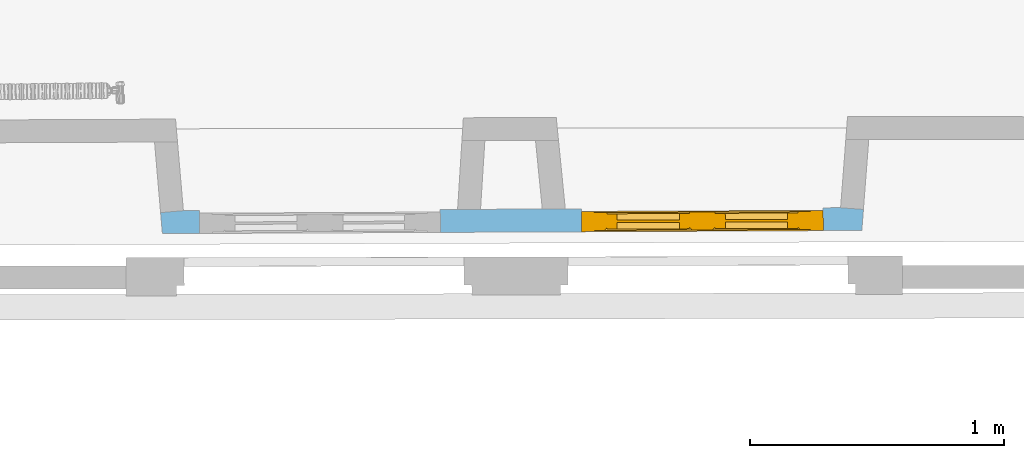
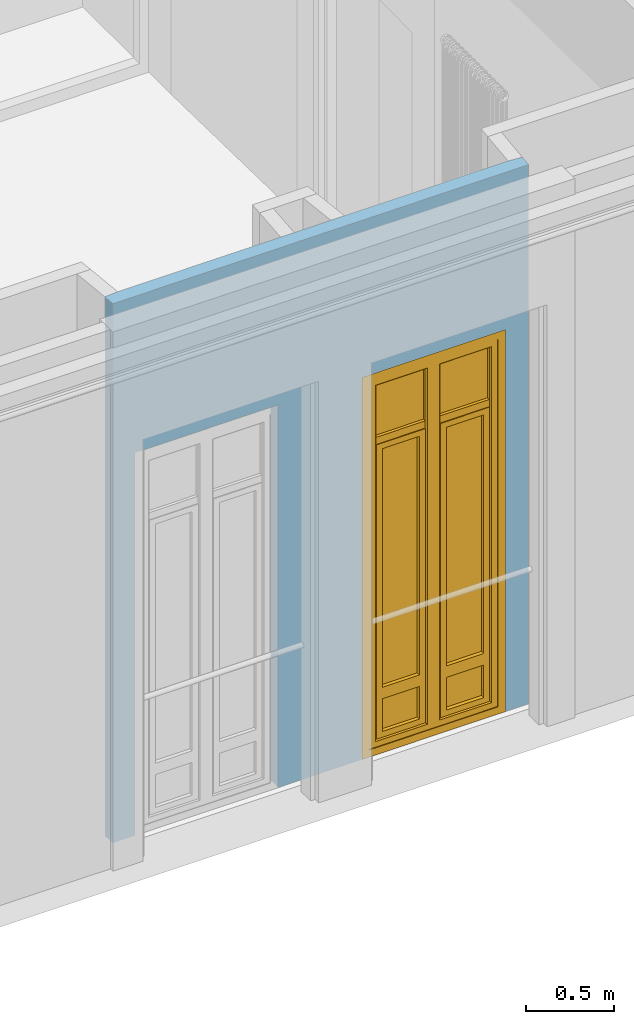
# One storey, part 36 of 66: 1 window, 2 openings, plus 1 element that does not belong to this part.
"""IFC2X3 building model written with IfcOpenShell, lengths in centimetres."""

from ifc_helpers import new_model, entity, si_unit, converted_unit, direction, frame, origin, origin_with_axes, place, context, subcontext, project, spatial, polyline, outline, extrude, faceted_brep, shape, source, transform, mapped, material, material_list, layer, layer_set, layer_usage, type_object, element, fill, save


model = new_model("IFC2X3")

# Units and contexts
model_context = context("Model", 3, precision=0.0001, world=origin(), true_north=direction((0.225632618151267, 0.974212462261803, 0.0)))
body_context = subcontext(model_context, "Body", "Model", "MODEL_VIEW")
footprint_context = subcontext(model_context, "FootPrint", "Model", "MODEL_VIEW")
profile_context = subcontext(model_context, "Profile", "Model", "MODEL_VIEW")
ifc_project = project(units=[si_unit("LENGTHUNIT", "METRE", prefix="CENTI"), si_unit("AREAUNIT", "SQUARE_METRE", prefix="CENTI"), si_unit("VOLUMEUNIT", "CUBIC_METRE", prefix="CENTI"), converted_unit("PLANEANGLEUNIT", "DEGREE", entity("IfcRatioMeasure", 0.0174532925), si_unit("PLANEANGLEUNIT", "RADIAN"), dimensions=[0, 0, 0, 0, 0, 0, 0])], contexts=[model_context])

# Site, building, storey
site_placement = place(None, origin_with_axes())
site = spatial("IfcSite", under=ifc_project, at=site_placement, Name="Default Site", CompositionType="ELEMENT")
building_placement = place(site_placement, origin_with_axes())
building = spatial("IfcBuilding", under=site, at=building_placement, Name="Default Building", CompositionType="ELEMENT")
storey_placement = place(building_placement, frame((0.0, 0.0, 477.795358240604), z_axis=(0.0, 0.0, 1.0), x_axis=(1.0, 0.0, 0.0)))
storey = spatial("IfcBuildingStorey", under=building, at=storey_placement, Name="Niveau 1", CompositionType="ELEMENT", Elevation=477.795358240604)

# Wall, openings, window
ifc_material_1 = material(Name="<aucun>")
ifc_layer = layer(ifc_material_1, 9.0)
ifc_layer_set = layer_set([ifc_layer], Name="default")
ifc_layer_usage = layer_usage(ifc_layer_set, "AXIS2", "POSITIVE", -4.5)
wall_type = type_object("IfcWallType", Name="default 90", PredefinedType="NOTDEFINED", material=ifc_layer_set)
wall_placement = place(storey_placement, frame((431.347521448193, -1021.27013066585, 0.0128503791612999), z_axis=(0.0, 0.0, 1.0), x_axis=(0.999989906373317, 0.00449301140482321, 0.0)))
wall = element("IfcWallStandardCase", 1, at=wall_placement, inside=storey, type_object=wall_type, material=ifc_layer_usage, Name="Enveloppe 775896", context=body_context, shape_type="SweptSolid", body=[
    extrude(outline(polyline([(145.200735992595, 4.49999999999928), (111.299680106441, 4.49999999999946), (4.14918639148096, 4.49999999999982), (-4.82124975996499, 3.77111369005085), (-4.14918639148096, -4.50000000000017), (111.29938252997, -4.49999866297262), (145.200735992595, -4.50000000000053), (270.736229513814, -4.5000000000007), (271.405605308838, 3.77428602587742), (262.434911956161, 4.49999999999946), (145.200735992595, 4.49999999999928)])), origin_with_axes(), (0.0, 0.0, 1.0), 376.102165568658),
])
opening_1_placement = place(wall_placement, frame((160.585489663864, -4.54747350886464e-13, 1.77635683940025e-13), z_axis=(0.0, 0.0, 1.0), x_axis=(1.0, -3.41220107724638e-15, 0.0)))
cartesian_point_1 = entity("IfcCartesianPoint", [0.0, 0.0, 266.5])
cartesian_point_2 = entity("IfcCartesianPoint", [95.0150468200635, 4.49999999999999])
opening_1 = element("IfcOpeningElement", 2, at=opening_1_placement, cuts=wall, Name="4294966417_11", ObjectType="Opening", shapes=[
    shape(body_context, "Body", "SweptSolid", [extrude(outline(polyline([(0.0, 266.5), (0.0, 8.88178419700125e-14), (95.0150468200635, 8.88178419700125e-14), (95.0150468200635, 266.5), (0.0, 266.5)])), frame((0.0, 14.5, 0.0), z_axis=(0.0, -1.0, 0.0), x_axis=(1.0, 0.0, 0.0)), (0.0, 0.0, 1.0), 29.0)]),
    shape(profile_context, "Profile", "GeometricCurveSet", [entity("IfcGeometricCurveSet", [entity("IfcPolyline", [cartesian_point_1, entity("IfcCartesianPoint", [0.0, 0.0, 8.88178419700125e-14]), entity("IfcCartesianPoint", [95.0150468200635, -1.77635683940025e-13, 8.88178419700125e-14]), entity("IfcCartesianPoint", [95.0150468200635, -1.77635683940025e-13, 266.5]), cartesian_point_1])])]),
    shape(footprint_context, "FootPrint", "GeometricCurveSet", [entity("IfcGeometricCurveSet", [entity("IfcPolyline", [cartesian_point_2, entity("IfcCartesianPoint", [0.0, 4.49999999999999]), entity("IfcCartesianPoint", [8.88178419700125e-14, -4.50000000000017]), entity("IfcCartesianPoint", [95.0150468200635, -4.50000000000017]), cartesian_point_2])])]),
])
opening_2_placement = place(wall_placement, frame((10.4769733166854, 0.0, 1.77635683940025e-13), z_axis=(0.0, 0.0, 1.0), x_axis=(1.0, -2.81111939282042e-15, 0.0)))
cartesian_point_3 = entity("IfcCartesianPoint", [0.0, 0.0, 267.0])
cartesian_point_4 = entity("IfcCartesianPoint", [94.6132473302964, 4.50000000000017])
element("IfcOpeningElement", 3, at=opening_2_placement, cuts=wall, Name="4294966416_11", ObjectType="Opening", shapes=[
    shape(body_context, "Body", "SweptSolid", [extrude(outline(polyline([(0.0, 267.0), (0.0, 8.88178419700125e-14), (94.6132473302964, 8.88178419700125e-14), (94.6132473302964, 267.0), (0.0, 267.0)])), frame((0.0, 14.5, 0.0), z_axis=(0.0, -1.0, 0.0), x_axis=(1.0, 0.0, 0.0)), (0.0, 0.0, 1.0), 29.0)]),
    shape(profile_context, "Profile", "GeometricCurveSet", [entity("IfcGeometricCurveSet", [entity("IfcPolyline", [cartesian_point_3, entity("IfcCartesianPoint", [0.0, 0.0, 8.88178419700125e-14]), entity("IfcCartesianPoint", [94.6132473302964, 1.77635683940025e-13, 8.88178419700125e-14]), entity("IfcCartesianPoint", [94.6132473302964, 1.77635683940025e-13, 267.0]), cartesian_point_3])])]),
    shape(footprint_context, "FootPrint", "GeometricCurveSet", [entity("IfcGeometricCurveSet", [entity("IfcPolyline", [cartesian_point_4, entity("IfcCartesianPoint", [0.0, 4.50000000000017]), entity("IfcCartesianPoint", [8.88178419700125e-14, -4.49999999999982]), entity("IfcCartesianPoint", [94.6132473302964, -4.49999999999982]), cartesian_point_4])])]),
])
ifc_material_2 = material(Name="Transparent")
ifc_material_3 = material(Name="Blanc trafic")
ifc_material_4 = material(Name="Aluminium satiné")
ifc_material_list = material_list([ifc_material_2, ifc_material_3, ifc_material_4])
window_style = type_object("IfcWindowStyle", Name="FN[R] 2VB[2V] MM", ConstructionType="NOTDEFINED", OperationType="NOTDEFINED", ParameterTakesPrecedence=False, Sizeable=False, material=ifc_material_list)
shared_shape = source(origin_with_axes(), body_context, "Body", "Brep", [
    faceted_brep([(-42.5075232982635, 261.500000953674, -3.99999991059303), (-42.5075232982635, 261.500000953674, 3.99999991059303), (-42.5075232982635, 5.00000007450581, 3.99999991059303), (-42.5075232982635, 5.00000007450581, -3.99999991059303), (-47.5075244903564, 266.499996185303, 3.99999991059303), (-47.5075244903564, -4.44089209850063e-14, 3.99999991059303), (-42.5075232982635, 5.00000007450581, 3.99999991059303), (-47.5075244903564, 266.499996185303, -3.99999991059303), (-47.5075244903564, -4.44089209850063e-14, -3.99999991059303), (-42.5075232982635, 5.00000007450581, -3.99999991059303), (42.5075232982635, 5.0000000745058, 3.99999991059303), (42.5075232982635, 5.0000000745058, -3.99999991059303), (47.5075244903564, -4.44089209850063e-14, 3.99999991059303), (42.5075232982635, 5.00000007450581, 3.99999991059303), (47.5075244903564, -4.44089209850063e-14, -3.99999991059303), (42.5075232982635, 5.00000007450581, -3.99999991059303), (42.5075232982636, 261.500000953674, 3.99999991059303), (42.5075232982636, 261.500000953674, -3.99999991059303), (47.5075244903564, 266.499996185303, 3.99999991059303), (47.5075244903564, 266.499996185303, -3.99999991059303)], [[[0, 1, 2, 3]], [[1, 4, 5, 6]], [[4, 7, 8, 5]], [[7, 0, 9, 8]], [[9, 6, 10, 11]], [[6, 5, 12, 13]], [[5, 8, 14, 12]], [[8, 9, 15, 14]], [[15, 13, 16, 17]], [[13, 12, 18, 16]], [[12, 14, 19, 18]], [[14, 15, 17, 19]], [[17, 16, 1, 0]], [[16, 18, 4, 1]], [[18, 19, 7, 4]], [[19, 17, 0, 7]]]),
    faceted_brep([(-38.5075241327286, 257.500004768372, -3.50000001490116), (-37.5075231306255, 256.500005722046, -2.49999901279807), (-37.5075231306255, 10.0000001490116, -2.49999901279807), (-38.5075241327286, 9.00000035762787, -3.50000001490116), (-37.5075221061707, 256.500005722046, -2.5000000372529), (-37.5075221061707, 256.500005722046, 3.50000001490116), (-37.5075221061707, 10.0000001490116, 3.50000001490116), (-37.5075221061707, 10.0000001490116, -2.5000000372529), (-42.5075232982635, 261.500000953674, 3.50000001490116), (-42.5075232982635, 5.00000007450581, 3.50000001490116), (-42.5075232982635, 261.500000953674, -3.50000001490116), (-42.5075232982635, 5.00000007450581, -3.50000001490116), (-37.5075221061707, 10.0000002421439, -2.50000013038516), (-5.00000007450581, 10.0000002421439, -2.50000013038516), (-3.99999991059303, 9.00000035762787, -3.50000001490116), (-5.00000007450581, 10.0000001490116, 3.50000001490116), (-5.00000007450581, 10.0000001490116, -2.5000000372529), (-3.33066907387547e-14, 5.00000007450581, 3.50000001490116), (-3.33066907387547e-14, 5.00000007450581, -3.50000001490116), (-4.99999998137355, 10.0000001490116, -2.49999994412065), (-4.99999998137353, 256.500005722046, -2.49999994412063), (-3.99999991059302, 257.500004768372, -3.50000001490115), (-5.00000007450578, 256.500005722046, 3.50000001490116), (-5.00000007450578, 256.500005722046, -2.5000000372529), (-1.66533453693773e-14, 261.500000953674, 3.50000001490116), (-5.00000007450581, 256.500005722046, 3.50000001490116), (-1.66533460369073e-14, 261.500000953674, -3.50000001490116), (-1.66533460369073e-14, 261.500000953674, 3.50000001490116), (-3.99999991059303, 257.500004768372, -3.50000001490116), (-1.66533453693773e-14, 261.500000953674, -3.50000001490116), (-5.00000007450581, 256.500005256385, -2.50000050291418), (-37.5075221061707, 256.500005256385, -2.50000050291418), (-5.00000007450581, 256.500005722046, -2.5000000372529)], [[[0, 1, 2, 3]], [[4, 5, 6, 7]], [[5, 8, 9, 6]], [[8, 10, 11, 9]], [[10, 0, 3, 11]], [[3, 12, 13, 14]], [[7, 6, 15, 16]], [[6, 9, 17, 15]], [[9, 11, 18, 17]], [[11, 3, 14, 18]], [[14, 19, 20, 21]], [[16, 15, 22, 23]], [[15, 17, 24, 25]], [[17, 18, 26, 27]], [[18, 14, 28, 29]], [[28, 30, 31, 0]], [[32, 25, 5, 4]], [[25, 24, 8, 5]], [[24, 29, 10, 8]], [[29, 28, 0, 10]]]),
    faceted_brep([(-5.00000007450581, 256.500005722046, -0.499999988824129), (-5.00000007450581, 220.274996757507, -0.499999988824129), (-37.5075221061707, 220.274996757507, -0.499999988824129), (-37.5075221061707, 256.500005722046, -0.499999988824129), (-37.5075221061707, 256.500005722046, 0.499999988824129), (-37.5075221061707, 220.274996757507, 0.499999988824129), (-5.00000007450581, 220.274996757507, 0.499999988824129), (-5.00000007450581, 256.500005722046, 0.499999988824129)], [[[0, 1, 2, 3]], [[4, 5, 6, 7]], [[3, 2, 5, 4]], [[2, 1, 6, 5]], [[1, 0, 7, 6]], [[0, 3, 4, 7]]]),
    faceted_brep([(-5.00000007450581, 215.275001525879, 2.5000000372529), (-5.00000007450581, 215.275001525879, -2.5000000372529), (-5.00000007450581, 220.274996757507, -2.5000000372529), (-5.00000007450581, 220.274996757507, 2.5000000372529), (-37.5075221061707, 220.274996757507, 2.5000000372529), (-37.5075221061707, 220.274996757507, -2.5000000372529), (-37.5075221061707, 215.275001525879, -2.5000000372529), (-37.5075221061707, 215.275001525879, 2.5000000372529)], [[[0, 1, 2, 3]], [[4, 5, 6, 7]], [[3, 2, 5, 4]], [[2, 1, 6, 5]], [[1, 0, 7, 6]], [[0, 3, 4, 7]]]),
    faceted_brep([(-33.5075229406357, 211.275005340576, -2.99999993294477), (-33.5075229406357, 211.275005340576, 2.99999993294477), (-33.5075229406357, 44.7912514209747, 2.99999993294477), (-33.5075229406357, 44.7912514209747, -2.99999993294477), (-37.5075221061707, 215.275001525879, 2.99999993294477), (-37.5075221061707, 40.7912492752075, 2.99999993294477), (-37.5075221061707, 215.275001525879, -2.99999993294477), (-37.5075221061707, 40.7912492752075, -2.99999993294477), (-9.00000035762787, 44.7912514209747, 2.99999993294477), (-9.00000035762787, 44.7912514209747, -2.99999993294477), (-5.00000007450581, 40.7912492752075, 2.99999993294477), (-5.00000007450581, 40.7912492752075, -2.99999993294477), (-9.00000035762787, 211.275005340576, 2.99999993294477), (-9.00000035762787, 211.275005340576, -2.99999993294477), (-5.00000007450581, 215.275001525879, 2.99999993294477), (-5.00000007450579, 215.275001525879, -2.99999993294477), (-5.00000007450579, 215.275001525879, 2.99999993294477), (-5.00000007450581, 215.275001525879, -2.99999993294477)], [[[0, 1, 2, 3]], [[1, 4, 5, 2]], [[4, 6, 7, 5]], [[6, 0, 3, 7]], [[3, 2, 8, 9]], [[2, 5, 10, 8]], [[5, 7, 11, 10]], [[7, 3, 9, 11]], [[9, 8, 12, 13]], [[8, 10, 14, 12]], [[10, 11, 15, 16]], [[11, 9, 13, 17]], [[13, 12, 1, 0]], [[12, 14, 4, 1]], [[14, 17, 6, 4]], [[17, 13, 0, 6]]]),
    faceted_brep([(-9.00000035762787, 211.275005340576, -0.499999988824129), (-9.00000035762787, 44.7912514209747, -0.499999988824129), (-33.5075229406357, 44.7912514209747, -0.499999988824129), (-33.5075229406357, 211.275005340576, -0.499999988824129), (-33.5075229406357, 211.275005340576, 0.499999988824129), (-33.5075229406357, 44.7912514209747, 0.499999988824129), (-9.00000035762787, 44.7912514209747, 0.499999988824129), (-9.00000035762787, 211.275005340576, 0.499999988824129), (-9.00000035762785, 211.275005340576, -0.499999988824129), (-9.00000035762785, 211.275005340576, 0.499999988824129)], [[[0, 1, 2, 3]], [[4, 5, 6, 7]], [[3, 2, 5, 4]], [[2, 1, 6, 5]], [[1, 8, 9, 6]], [[0, 3, 4, 7]]]),
    faceted_brep([(-33.5075229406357, 36.7912501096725, -2.99999993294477), (-33.5075229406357, 36.7912501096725, 2.99999993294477), (-33.5075229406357, 14.0000000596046, 2.99999993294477), (-33.5075229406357, 14.0000000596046, -2.99999993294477), (-37.5075221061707, 40.7912492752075, 2.99999993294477), (-37.5075221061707, 10.0000001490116, 2.99999993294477), (-37.5075221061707, 40.7912492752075, -2.99999993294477), (-37.5075221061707, 10.0000001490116, -2.99999993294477), (-9.00000035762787, 14.0000000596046, 2.99999993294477), (-9.00000035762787, 14.0000000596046, -2.99999993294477), (-5.00000007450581, 10.0000001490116, 2.99999993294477), (-5.00000007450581, 10.0000001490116, -2.99999993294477), (-9.00000035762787, 36.7912501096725, 2.99999993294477), (-9.00000035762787, 36.7912501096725, -2.99999993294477), (-5.00000007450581, 40.7912492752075, 2.99999993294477), (-5.00000007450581, 40.7912492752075, -2.99999993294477)], [[[0, 1, 2, 3]], [[1, 4, 5, 2]], [[4, 6, 7, 5]], [[6, 0, 3, 7]], [[3, 2, 8, 9]], [[2, 5, 10, 8]], [[5, 7, 11, 10]], [[7, 3, 9, 11]], [[9, 8, 12, 13]], [[8, 10, 14, 12]], [[10, 11, 15, 14]], [[11, 9, 13, 15]], [[13, 12, 1, 0]], [[12, 14, 4, 1]], [[14, 15, 6, 4]], [[15, 13, 0, 6]]]),
    faceted_brep([(-9.00000035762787, 36.7912501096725, -0.499999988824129), (-9.00000035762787, 14.0000000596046, -0.499999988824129), (-33.5075229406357, 14.0000000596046, -0.499999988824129), (-33.5075229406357, 36.7912501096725, -0.499999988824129), (-33.5075229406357, 36.7912501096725, 0.499999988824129), (-33.5075229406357, 14.0000000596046, 0.499999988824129), (-9.00000035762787, 14.0000000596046, 0.499999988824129), (-9.00000035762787, 36.7912501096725, 0.499999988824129)], [[[0, 1, 2, 3]], [[4, 5, 6, 7]], [[3, 2, 5, 4]], [[2, 1, 6, 5]], [[1, 0, 7, 6]], [[0, 3, 4, 7]]]),
    faceted_brep([(3.99999991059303, 257.500004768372, -3.50000001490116), (4.99999998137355, 256.500005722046, -2.49999994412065), (4.99999998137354, 10.0000001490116, -2.49999994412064), (3.99999991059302, 9.00000035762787, -3.50000001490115), (5.00000007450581, 256.500005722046, -2.5000000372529), (5.00000007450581, 256.500005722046, 3.50000001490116), (5.00000007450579, 10.0000001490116, 3.50000001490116), (5.00000007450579, 10.0000001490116, -2.5000000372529), (-1.66533453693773e-14, 261.500000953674, 3.50000001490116), (-3.33066907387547e-14, 5.00000007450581, 3.50000001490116), (5.00000007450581, 10.0000001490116, 3.50000001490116), (-1.66533453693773e-14, 261.500000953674, -3.50000001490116), (-3.33066900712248e-14, 5.00000007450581, -3.50000001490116), (-3.33066900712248e-14, 5.00000007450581, 3.50000001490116), (3.99999991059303, 9.00000035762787, -3.50000001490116), (-3.33066907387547e-14, 5.00000007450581, -3.50000001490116), (5.00000007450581, 10.0000002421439, -2.50000013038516), (37.5075221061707, 10.0000002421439, -2.50000013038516), (38.5075241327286, 9.00000035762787, -3.50000001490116), (5.00000007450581, 10.0000001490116, -2.5000000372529), (37.5075221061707, 10.0000001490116, 3.50000001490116), (37.5075221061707, 10.0000001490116, -2.5000000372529), (42.5075232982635, 5.00000007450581, 3.50000001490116), (42.5075232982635, 5.00000007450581, -3.50000001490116), (37.5075231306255, 10.0000001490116, -2.49999901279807), (37.5075231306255, 256.500005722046, -2.49999901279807), (38.5075241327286, 257.500004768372, -3.50000001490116), (37.5075221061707, 256.500005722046, 3.50000001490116), (37.5075221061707, 256.500005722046, -2.5000000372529), (42.5075232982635, 261.500000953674, 3.50000001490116), (42.5075232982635, 261.500000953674, -3.50000001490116), (37.5075221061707, 256.500005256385, -2.50000050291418), (5.00000007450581, 256.500005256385, -2.50000050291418)], [[[0, 1, 2, 3]], [[4, 5, 6, 7]], [[5, 8, 9, 10]], [[8, 11, 12, 13]], [[11, 0, 14, 15]], [[14, 16, 17, 18]], [[19, 10, 20, 21]], [[10, 9, 22, 20]], [[9, 15, 23, 22]], [[15, 14, 18, 23]], [[18, 24, 25, 26]], [[21, 20, 27, 28]], [[20, 22, 29, 27]], [[22, 23, 30, 29]], [[23, 18, 26, 30]], [[26, 31, 32, 0]], [[28, 27, 5, 4]], [[27, 29, 8, 5]], [[29, 30, 11, 8]], [[30, 26, 0, 11]]]),
    faceted_brep([(4.50000017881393, 135.249996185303, 3.50000001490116), (4.50000017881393, 131.25, 3.50000001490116), (0.499999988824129, 131.25, 3.50000001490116), (0.499999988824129, 135.249996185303, 3.50000001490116), (0.499999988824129, 135.249996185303, 4.30000014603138), (0.499999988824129, 131.25, 4.30000014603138), (4.50000017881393, 131.25, 4.30000014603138), (4.50000017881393, 135.249996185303, 4.30000014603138)], [[[0, 1, 2, 3]], [[4, 5, 6, 7]], [[3, 2, 5, 4]], [[2, 1, 6, 5]], [[1, 0, 7, 6]], [[0, 3, 4, 7]]]),
    faceted_brep([(3.24999988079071, 133.749997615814, 4.30000014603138), (3.24999988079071, 132.749998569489, 4.30000014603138), (1.75000000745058, 132.749998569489, 4.30000014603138), (1.75000000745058, 133.749997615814, 4.30000014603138), (1.75000000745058, 133.749997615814, 8.29999968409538), (1.75000000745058, 132.749998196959, 7.30000026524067), (3.24999988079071, 132.749998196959, 7.30000026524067), (3.24999988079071, 133.749997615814, 8.29999968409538), (1.75000000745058, 132.749998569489, 7.29999989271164), (3.24999988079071, 132.749998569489, 7.29999989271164)], [[[0, 1, 2, 3]], [[4, 5, 6, 7]], [[3, 2, 8, 4]], [[2, 1, 9, 8]], [[1, 0, 7, 9]], [[0, 3, 4, 7]]]),
    faceted_brep([(3.24999988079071, 133.749997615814, 8.29999968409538), (3.24999988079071, 132.749998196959, 7.30000026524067), (1.75000000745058, 132.749998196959, 7.30000026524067), (1.75000000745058, 133.749997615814, 8.29999968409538), (1.75000000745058, 120.749998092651, 8.29999968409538), (1.75000000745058, 120.749998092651, 7.29999989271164), (3.24999988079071, 120.749998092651, 7.29999989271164), (3.24999988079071, 120.749998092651, 8.29999968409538), (1.75000000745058, 132.749998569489, 7.29999989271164), (3.24999988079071, 132.749998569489, 7.29999989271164)], [[[0, 1, 2, 3]], [[4, 5, 6, 7]], [[3, 8, 5, 4]], [[8, 9, 6, 5]], [[9, 0, 7, 6]], [[0, 3, 4, 7]]]),
    faceted_brep([(37.5075221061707, 256.500005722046, -0.499999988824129), (37.5075221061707, 220.274996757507, -0.499999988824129), (5.00000007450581, 220.274996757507, -0.499999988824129), (5.00000007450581, 256.500005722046, -0.499999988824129), (5.00000007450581, 256.500005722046, 0.499999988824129), (5.00000007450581, 220.274996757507, 0.499999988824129), (37.5075221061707, 220.274996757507, 0.499999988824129), (37.5075221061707, 256.500005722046, 0.499999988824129)], [[[0, 1, 2, 3]], [[4, 5, 6, 7]], [[3, 2, 5, 4]], [[2, 1, 6, 5]], [[1, 0, 7, 6]], [[0, 3, 4, 7]]]),
    faceted_brep([(37.5075221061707, 215.275001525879, 2.5000000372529), (37.5075221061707, 215.275001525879, -2.5000000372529), (37.5075221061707, 220.274996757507, -2.5000000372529), (37.5075221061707, 220.274996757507, 2.5000000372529), (5.00000007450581, 220.274996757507, 2.5000000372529), (5.00000007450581, 220.274996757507, -2.5000000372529), (5.00000007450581, 215.275001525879, -2.5000000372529), (5.00000007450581, 215.275001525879, 2.5000000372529)], [[[0, 1, 2, 3]], [[4, 5, 6, 7]], [[3, 2, 5, 4]], [[2, 1, 6, 5]], [[1, 0, 7, 6]], [[0, 3, 4, 7]]]),
    faceted_brep([(9.00000035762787, 211.275005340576, -2.99999993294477), (9.00000035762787, 211.275005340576, 2.99999993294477), (9.00000035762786, 44.7912514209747, 2.99999993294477), (9.00000035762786, 44.7912514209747, -2.99999993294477), (5.00000007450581, 215.275001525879, 2.99999993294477), (5.00000007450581, 40.7912492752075, 2.99999993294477), (9.00000035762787, 44.7912514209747, 2.99999993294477), (5.00000007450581, 215.275001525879, -2.99999993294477), (5.0000000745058, 40.7912492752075, -2.99999993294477), (5.0000000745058, 40.7912492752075, 2.99999993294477), (9.00000035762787, 44.7912514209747, -2.99999993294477), (5.00000007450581, 40.7912492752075, -2.99999993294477), (33.5075229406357, 44.7912514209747, 2.99999993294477), (33.5075229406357, 44.7912514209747, -2.99999993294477), (37.5075221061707, 40.7912492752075, 2.99999993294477), (37.5075221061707, 40.7912492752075, -2.99999993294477), (33.5075229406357, 211.275005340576, 2.99999993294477), (33.5075229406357, 211.275005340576, -2.99999993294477), (37.5075221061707, 215.275001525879, 2.99999993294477), (37.5075221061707, 215.275001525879, -2.99999993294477)], [[[0, 1, 2, 3]], [[1, 4, 5, 6]], [[4, 7, 8, 9]], [[7, 0, 10, 11]], [[10, 6, 12, 13]], [[6, 5, 14, 12]], [[5, 11, 15, 14]], [[11, 10, 13, 15]], [[13, 12, 16, 17]], [[12, 14, 18, 16]], [[14, 15, 19, 18]], [[15, 13, 17, 19]], [[17, 16, 1, 0]], [[16, 18, 4, 1]], [[18, 19, 7, 4]], [[19, 17, 0, 7]]]),
    faceted_brep([(33.5075229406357, 211.275005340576, -0.499999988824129), (33.5075229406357, 44.7912514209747, -0.499999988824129), (9.00000035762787, 44.7912514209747, -0.499999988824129), (9.00000035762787, 211.275005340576, -0.499999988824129), (9.00000035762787, 211.275005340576, 0.499999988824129), (9.00000035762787, 44.7912514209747, 0.499999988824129), (33.5075229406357, 44.7912514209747, 0.499999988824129), (33.5075229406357, 211.275005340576, 0.499999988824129), (9.00000035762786, 44.7912514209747, -0.499999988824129), (9.00000035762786, 44.7912514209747, 0.499999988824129)], [[[0, 1, 2, 3]], [[4, 5, 6, 7]], [[3, 8, 9, 4]], [[2, 1, 6, 5]], [[1, 0, 7, 6]], [[0, 3, 4, 7]]]),
    faceted_brep([(9.00000035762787, 36.7912501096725, -2.99999993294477), (9.00000035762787, 36.7912501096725, 2.99999993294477), (9.00000035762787, 14.0000000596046, 2.99999993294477), (9.00000035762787, 14.0000000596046, -2.99999993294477), (5.00000007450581, 40.7912492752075, 2.99999993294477), (5.00000007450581, 10.0000001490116, 2.99999993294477), (5.00000007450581, 40.7912492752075, -2.99999993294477), (5.0000000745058, 10.0000001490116, -2.99999993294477), (5.0000000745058, 10.0000001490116, 2.99999993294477), (5.00000007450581, 10.0000001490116, -2.99999993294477), (33.5075229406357, 14.0000000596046, 2.99999993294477), (33.5075229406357, 14.0000000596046, -2.99999993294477), (37.5075221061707, 10.0000001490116, 2.99999993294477), (37.5075221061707, 10.0000001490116, -2.99999993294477), (33.5075229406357, 36.7912501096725, 2.99999993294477), (33.5075229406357, 36.7912501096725, -2.99999993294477), (37.5075221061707, 40.7912492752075, 2.99999993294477), (37.5075221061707, 40.7912492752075, -2.99999993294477)], [[[0, 1, 2, 3]], [[1, 4, 5, 2]], [[4, 6, 7, 8]], [[6, 0, 3, 9]], [[3, 2, 10, 11]], [[2, 5, 12, 10]], [[5, 9, 13, 12]], [[9, 3, 11, 13]], [[11, 10, 14, 15]], [[10, 12, 16, 14]], [[12, 13, 17, 16]], [[13, 11, 15, 17]], [[15, 14, 1, 0]], [[14, 16, 4, 1]], [[16, 17, 6, 4]], [[17, 15, 0, 6]]]),
    faceted_brep([(33.5075229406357, 36.7912501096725, -0.499999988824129), (33.5075229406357, 14.0000000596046, -0.499999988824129), (9.00000035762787, 14.0000000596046, -0.499999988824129), (9.00000035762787, 36.7912501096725, -0.499999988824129), (9.00000035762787, 36.7912501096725, 0.499999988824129), (9.00000035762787, 14.0000000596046, 0.499999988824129), (33.5075229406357, 14.0000000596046, 0.499999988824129), (33.5075229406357, 36.7912501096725, 0.499999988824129)], [[[0, 1, 2, 3]], [[4, 5, 6, 7]], [[3, 2, 5, 4]], [[2, 1, 6, 5]], [[1, 0, 7, 6]], [[0, 3, 4, 7]]]),
])
window_placement = place(opening_1_placement, frame((1.13686837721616e-13, -4.50000000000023, 0.0), z_axis=(0.0, 0.0, 1.0), x_axis=(1.0, 0.0, 0.0)))
window = element("IfcWindow", 4, at=window_placement, inside=storey, type_object=window_style, material=ifc_material_list, Name="Fenêtre 121286", OverallHeight=266.5, OverallWidth=95.0150468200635, context=body_context, shape_type="MappedRepresentation", body=[
    mapped(shared_shape, transform((47.5075234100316, 4.00000000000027, -8.88178419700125e-14), x_axis=(-1.0, 0.0, 0.0), y_axis=(0.0, 0.0, 1.0), z_axis=(0.0, 1.0, 0.0), scale=1.0, scale2=1.0, scale3=1.0, uniform=False)),
])
fill(opening_1, window)

save(model, "model.ifc")
